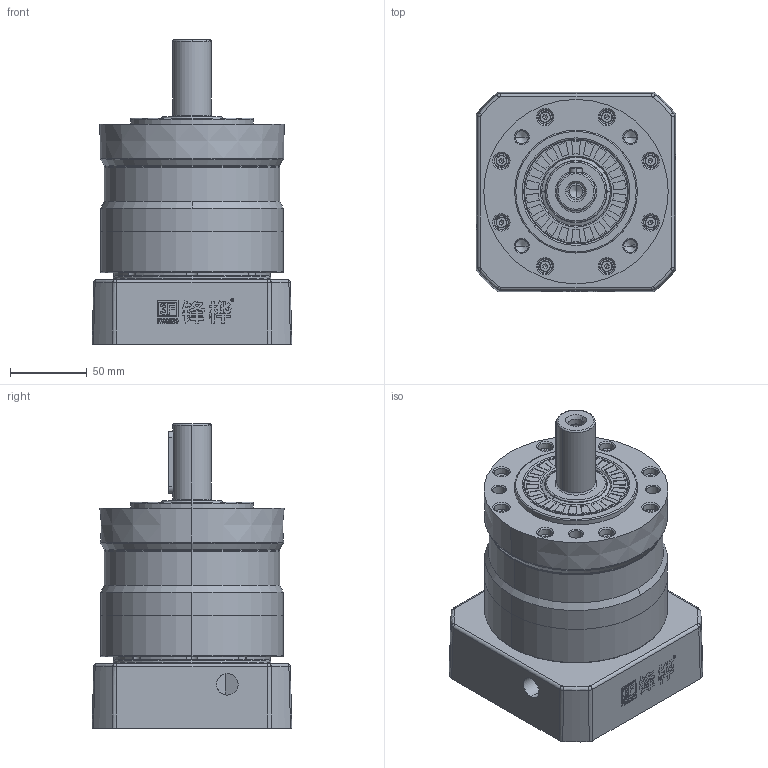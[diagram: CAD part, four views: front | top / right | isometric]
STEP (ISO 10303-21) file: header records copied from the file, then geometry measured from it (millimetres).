
FILE_DESCRIPTION (( 'STEP AP214' ), '1' );
FILE_NAME ('FE120-L1-S2-P2 22-110-145-M8.STEP', '2021-04-23T07:38:08', ( 'Microsoft' ), ( 'Microsoft China' ), 'SwSTEP 2.0', 'SolidWorks 2016', '' );
FILE_SCHEMA (( 'AUTOMOTIVE_DESIGN' ));
Length unit declared in the file: millimetre
Products named in the file (14): 输入锁紧环26X63.5X16; 怀堤俴陎殤FE115D-25X50XM10; 镂空输入法兰-110X44.5XM8; 输入端壳体FE110D; 怀堤傷褲极FE120; 内齿圈FE120; FE120-L1-S2-P2 22-110-145-M8; M8-16; M6-14樓粟菜; M5-12樓粟菜; す瑩8X40; 蚐猾40x68x8; M4-10樓粟菜; 输入太阳齿轮FE115D-22
Assembly tree (32 placements, depth 2):
  FE120-L1-S2-P2 22-110-145-M8
    内齿圈FE120
    怀堤傷褲极FE120
    输入端壳体FE110D
    镂空输入法兰-110X44.5XM8
    怀堤俴陎殤FE115D-25X50XM10
    输入锁紧环26X63.5X16
    输入太阳齿轮FE115D-22
    M4-10樓粟菜  x8
    蚐猾40x68x8
    す瑩8X40
    M5-12樓粟菜  x8
    M6-14樓粟菜  x6
    M8-16
Bounding box: 130 x 130 x 198 mm (x, y, z)
Volume: 1418093 mm3; surface area: 261634.9 mm2
Topology: 10 solids, 54 shells, 2057 faces, 5028 edges, 3092 vertices
Faces by surface type: plane 721, bspline 531, cylinder 418, cone 308, torus 79
Entity records: 80492 total; most frequent: CARTESIAN_POINT 30477, ORIENTED_EDGE 7314, DIRECTION 5893, EDGE_CURVE 3667, VERTEX_POINT 2274, AXIS2_PLACEMENT_3D 2181, EDGE_LOOP 1682, UNCERTAINTY_MEASURE_WITH_UNIT 1571
